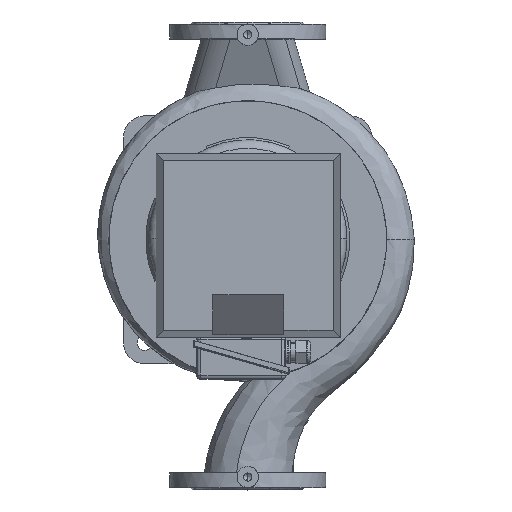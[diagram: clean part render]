
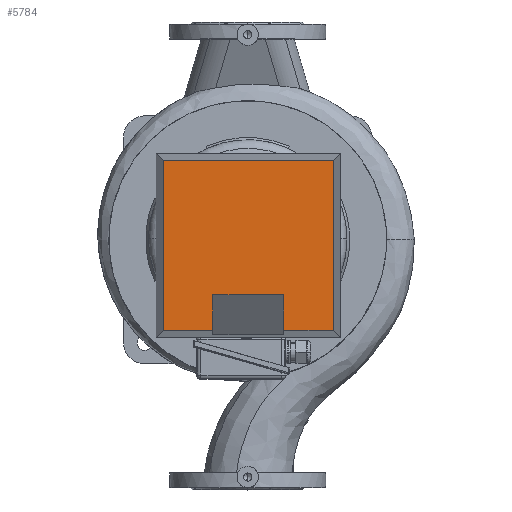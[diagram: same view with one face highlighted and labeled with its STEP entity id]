
A CAD part, top view. The second image highlights one B-rep face of the part: STEP entity #5784.
In plain terms, the highlighted planar face has unit normal (0, 0, 1) as drawn and (0, 1, 0) by its records, which use the part's own axes.
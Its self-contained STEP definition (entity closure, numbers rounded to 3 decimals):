
#5784=ADVANCED_FACE('',(#11425),#11426,.T.);
#5794=EDGE_CURVE('',#11441,#11438,#11442,.T.);
#11425=FACE_OUTER_BOUND('',#20546,.T.);
#11426=PLANE('',#20547);
#11438=VERTEX_POINT('',#20560);
#11441=VERTEX_POINT('',#20565);
#11442=LINE('',#20566,#20567);
#20546=EDGE_LOOP('',(#33324,#33325,#33326,#33327,#33328,#33329,#33330,#33331));
#20547=AXIS2_PLACEMENT_3D('',#33332,#33333,#33334);
#20560=CARTESIAN_POINT('',(-50.0,90.0,199.485));
#20565=CARTESIAN_POINT('',(-50.0,90.0,250.0));
#20566=CARTESIAN_POINT('',(-50.0,90.0,127.834));
#20567=VECTOR('',#33360,1.0);
#33324=ORIENTED_EDGE('',*,*,#37206,.T.);
#33325=ORIENTED_EDGE('',*,*,#37212,.F.);
#33326=ORIENTED_EDGE('',*,*,#37220,.F.);
#33327=ORIENTED_EDGE('',*,*,#37222,.F.);
#33328=ORIENTED_EDGE('',*,*,#37214,.F.);
#33329=ORIENTED_EDGE('',*,*,#37208,.F.);
#33330=ORIENTED_EDGE('',*,*,#5794,.T.);
#33331=ORIENTED_EDGE('',*,*,#37202,.T.);
#33332=CARTESIAN_POINT('',(0.0,90.0,0.0));
#33333=DIRECTION('',(0.0,1.0,-0.0));
#33334=DIRECTION('',(-1.0,0.0,0.0));
#33360=DIRECTION('',(0.0,-0.0,-1.0));
#37202=EDGE_CURVE('',#11438,#42678,#42681,.T.);
#37206=EDGE_CURVE('',#42678,#42684,#42686,.T.);
#37208=EDGE_CURVE('',#11441,#42688,#42689,.T.);
#37212=EDGE_CURVE('',#42694,#42684,#42696,.T.);
#37214=EDGE_CURVE('',#42688,#42698,#42699,.T.);
#37220=EDGE_CURVE('',#42704,#42694,#42706,.T.);
#37222=EDGE_CURVE('',#42698,#42704,#42708,.T.);
#42678=VERTEX_POINT('',#57457);
#42681=LINE('',#57461,#57462);
#42684=VERTEX_POINT('',#57466);
#42686=LINE('',#57469,#57470);
#42688=VERTEX_POINT('',#57472);
#42689=LINE('',#57473,#57474);
#42694=VERTEX_POINT('',#57481);
#42696=LINE('',#57484,#57485);
#42698=VERTEX_POINT('',#57487);
#42699=LINE('',#57488,#57489);
#42704=VERTEX_POINT('',#57497);
#42706=LINE('',#57500,#57501);
#42708=LINE('',#57503,#57504);
#57457=CARTESIAN_POINT('',(50.0,90.0,199.485));
#57461=CARTESIAN_POINT('',(-25.0,90.0,199.485));
#57462=VECTOR('',#61102,1.0);
#57466=CARTESIAN_POINT('',(50.0,90.0,250.0));
#57469=CARTESIAN_POINT('',(50.0,90.0,127.834));
#57470=VECTOR('',#61105,1.0);
#57472=CARTESIAN_POINT('',(-120.0,90.0,250.0));
#57473=CARTESIAN_POINT('',(65.0,90.0,250.0));
#57474=VECTOR('',#61106,1.0);
#57481=CARTESIAN_POINT('',(120.0,90.0,250.0));
#57484=CARTESIAN_POINT('',(65.0,90.0,250.0));
#57485=VECTOR('',#61110,1.0);
#57487=CARTESIAN_POINT('',(-120.0,90.0,10.0));
#57488=CARTESIAN_POINT('',(-120.0,90.0,0.0));
#57489=VECTOR('',#61111,1.0);
#57497=CARTESIAN_POINT('',(120.0,90.0,10.0));
#57500=CARTESIAN_POINT('',(120.0,90.0,0.0));
#57501=VECTOR('',#61116,1.0);
#57503=CARTESIAN_POINT('',(65.0,90.0,10.0));
#57504=VECTOR('',#61117,1.0);
#61102=DIRECTION('',(1.0,0.0,0.0));
#61105=DIRECTION('',(-0.0,0.0,1.0));
#61106=DIRECTION('',(-1.0,0.0,-0.0));
#61110=DIRECTION('',(-1.0,0.0,-0.0));
#61111=DIRECTION('',(-0.0,-0.0,-1.0));
#61116=DIRECTION('',(-0.0,0.0,1.0));
#61117=DIRECTION('',(1.0,-0.0,-0.0));
